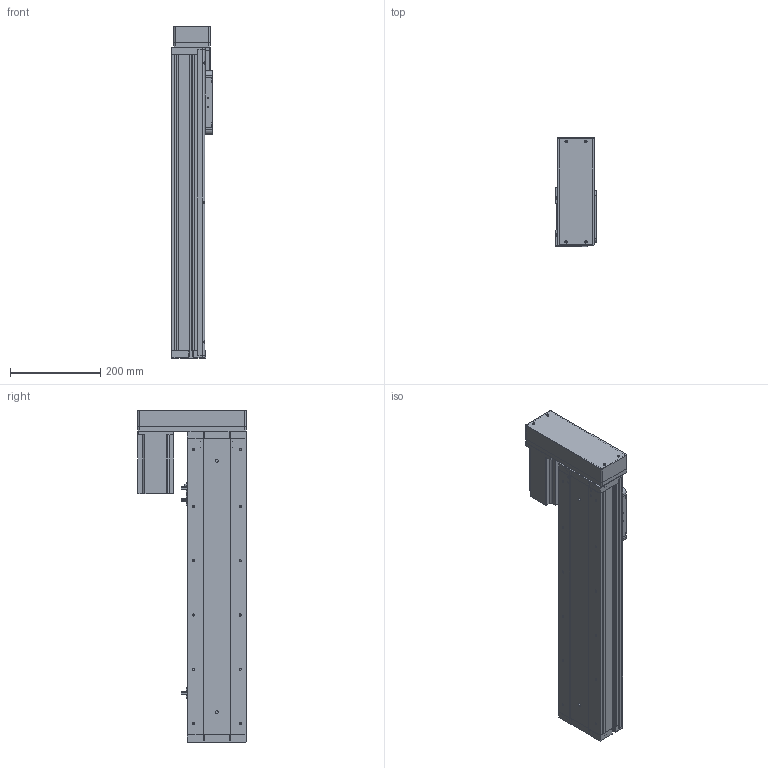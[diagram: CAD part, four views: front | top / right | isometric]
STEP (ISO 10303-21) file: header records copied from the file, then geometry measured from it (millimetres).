
FILE_DESCRIPTION (( 'STEP AP214' ), '1' );
FILE_NAME ('KSD130S-P2010-ML-CR-S450.STEP', '2019-09-24T06:06:32', ( '微软用户' ), ( '微软中国' ), 'SwSTEP 2.0', 'SolidWorks 2014', '' );
FILE_SCHEMA (( 'AUTOMOTIVE_DESIGN' ));
Length unit declared in the file: millimetre
Products named in the file (14): 130宽模组马达安装板连板左右折丝杆; 感应片130宽全封闭; U倰嫖萇EEㄜSX672; 130遵裔啣揤啣1; 130宽盖板全封闭-450行程; 130宽滚珠螺姆安装板1防护罩; 130宽滚珠螺姆安装板1; 130宽侧板全封闭-450行程; 130宽全封闭马达安装板丝杠; 130宽全封闭端盖丝杠; 130宽底板全封闭丝杠-450行程; 台达ECMA－C20807AS伺服电机; KSD130S-P2010-ML-CR-S450; 130宽模组保护罩左右折
Assembly tree (17 placements, depth 2):
  KSD130S-P2010-ML-CR-S450
    130宽底板全封闭丝杠-450行程
    130宽全封闭端盖丝杠
    130宽全封闭马达安装板丝杠
    130宽侧板全封闭-450行程  x2
    130宽滚珠螺姆安装板1
    130宽滚珠螺姆安装板1防护罩
    130宽盖板全封闭-450行程
    130遵裔啣揤啣1  x2
    U倰嫖萇EEㄜSX672  x3
    感应片130宽全封闭
    130宽模组马达安装板连板左右折丝杆
    台达ECMA－C20807AS伺服电机
    130宽模组保护罩左右折
Bounding box: 90 x 240 x 734.5 mm (x, y, z)
Volume: 3156511.4 mm3; surface area: 963871.2 mm2
Topology: 18 solids, 18 shells, 1430 faces, 3900 edges, 2467 vertices
Faces by surface type: cylinder 624, plane 611, cone 195
Entity records: 43278 total; most frequent: DIRECTION 6583, CARTESIAN_POINT 6511, ORIENTED_EDGE 6118, EDGE_CURVE 3059, AXIS2_PLACEMENT_3D 2355, VERTEX_POINT 1997, LINE 1873, VECTOR 1873
